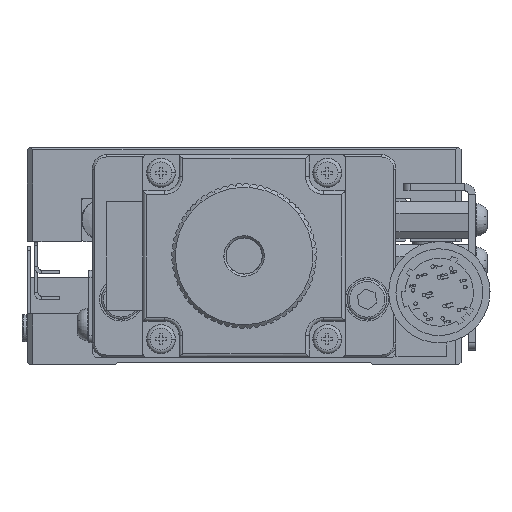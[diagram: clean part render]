
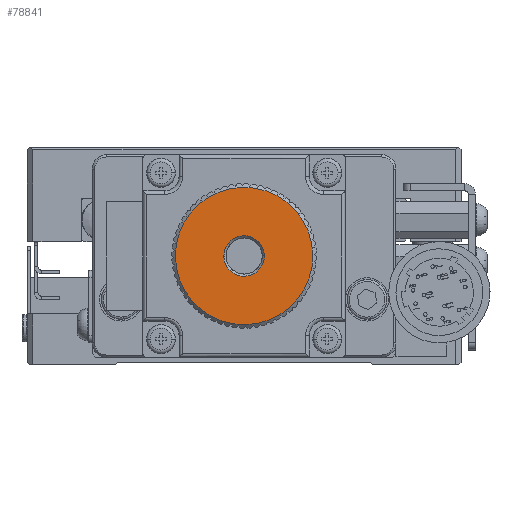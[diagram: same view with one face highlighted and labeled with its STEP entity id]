
A CAD part, front view. The second image highlights one B-rep face of the part: STEP entity #78841.
In plain terms, the highlighted planar face has unit normal (0, -1, 0).
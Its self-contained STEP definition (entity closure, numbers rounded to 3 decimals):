
#5309 = AXIS2_PLACEMENT_3D ( 'NONE', #101160, #28242, #14326 ) ;
#9788 = FACE_BOUND ( 'NONE', #71418, .T. ) ;
#14326 = DIRECTION ( 'NONE',  ( -1., 0., -0.024 ) ) ;
#20380 = FACE_OUTER_BOUND ( 'NONE', #101811, .T. ) ;
#28242 = DIRECTION ( 'NONE',  ( 0., -1., 0. ) ) ;
#31166 = EDGE_CURVE ( 'NONE', #64599, #135583, #68790, .T. ) ;
#35750 = ORIENTED_EDGE ( 'NONE', *, *, #38941, .T. ) ;
#38850 = DIRECTION ( 'NONE',  ( -1., 0., -0.024 ) ) ;
#38941 = EDGE_CURVE ( 'NONE', #114038, #134228, #159510, .T. ) ;
#44290 = AXIS2_PLACEMENT_3D ( 'NONE', #64313, #77468, #38850 ) ;
#51202 = DIRECTION ( 'NONE',  ( -1., 0., -0.024 ) ) ;
#51349 = CARTESIAN_POINT ( 'NONE',  ( 2.799, -113., 15.066 ) ) ;
#63478 = DIRECTION ( 'NONE',  ( 0., -1., 0. ) ) ;
#64313 = CARTESIAN_POINT ( 'NONE',  ( 0., -113., 15. ) ) ;
#64599 = VERTEX_POINT ( 'NONE', #145063 ) ;
#68790 = CIRCLE ( 'NONE', #81893, 9.5 ) ;
#70540 = ORIENTED_EDGE ( 'NONE', *, *, #31166, .T. ) ;
#71418 = EDGE_LOOP ( 'NONE', ( #35750, #150039 ) ) ;
#77468 = DIRECTION ( 'NONE',  ( 0., 1., 0. ) ) ;
#78841 = ADVANCED_FACE ( 'NONE', ( #9788, #20380 ), #145055, .F. ) ;
#81893 = AXIS2_PLACEMENT_3D ( 'NONE', #153670, #63478, #51202 ) ;
#84417 = CARTESIAN_POINT ( 'NONE',  ( 0., -113., 15. ) ) ;
#90623 = CARTESIAN_POINT ( 'NONE',  ( 0., -113., 15. ) ) ;
#94225 = DIRECTION ( 'NONE',  ( 0., 1., 0. ) ) ;
#98810 = AXIS2_PLACEMENT_3D ( 'NONE', #84417, #94225, #108903 ) ;
#101160 = CARTESIAN_POINT ( 'NONE',  ( 0., -113., 15. ) ) ;
#101682 = EDGE_CURVE ( 'NONE', #134228, #114038, #151777, .T. ) ;
#101811 = EDGE_LOOP ( 'NONE', ( #116825, #70540 ) ) ;
#104456 = AXIS2_PLACEMENT_3D ( 'NONE', #90623, #129910, #131455 ) ;
#106714 = EDGE_CURVE ( 'NONE', #135583, #64599, #133904, .T. ) ;
#108903 = DIRECTION ( 'NONE',  ( -1., 0., -0.024 ) ) ;
#114038 = VERTEX_POINT ( 'NONE', #51349 ) ;
#116825 = ORIENTED_EDGE ( 'NONE', *, *, #106714, .T. ) ;
#129910 = DIRECTION ( 'NONE',  ( 0., 1., 0. ) ) ;
#131455 = DIRECTION ( 'NONE',  ( -1., 0., -0.024 ) ) ;
#133904 = CIRCLE ( 'NONE', #5309, 9.5 ) ;
#134228 = VERTEX_POINT ( 'NONE', #147200 ) ;
#135245 = CARTESIAN_POINT ( 'NONE',  ( -9.497, -113., 14.776 ) ) ;
#135583 = VERTEX_POINT ( 'NONE', #135245 ) ;
#145055 = PLANE ( 'NONE',  #98810 ) ;
#145063 = CARTESIAN_POINT ( 'NONE',  ( 9.497, -113., 15.224 ) ) ;
#147200 = CARTESIAN_POINT ( 'NONE',  ( -2.799, -113., 14.934 ) ) ;
#150039 = ORIENTED_EDGE ( 'NONE', *, *, #101682, .T. ) ;
#151777 = CIRCLE ( 'NONE', #44290, 2.8 ) ;
#153670 = CARTESIAN_POINT ( 'NONE',  ( 0., -113., 15. ) ) ;
#159510 = CIRCLE ( 'NONE', #104456, 2.8 ) ;
